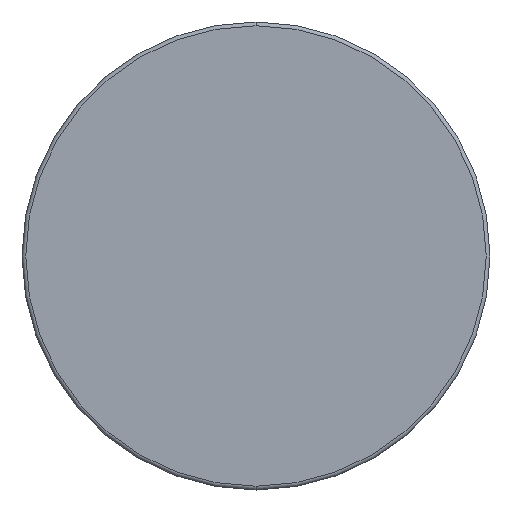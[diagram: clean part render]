
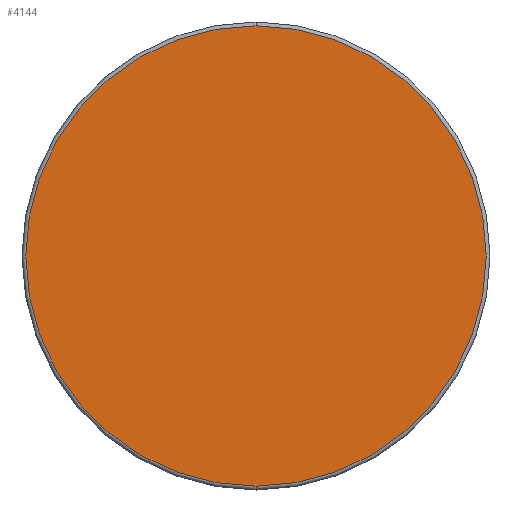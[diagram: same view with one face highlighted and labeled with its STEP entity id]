
A CAD part, front view. The second image highlights one B-rep face of the part: STEP entity #4144.
In plain terms, the highlighted planar face has unit normal (0, -1, 0) as drawn and (-1, 0, 0) by its records, which use the part's own axes.
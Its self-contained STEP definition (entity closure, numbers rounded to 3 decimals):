
#318 = CIRCLE ( 'NONE', #1832, 30.5 ) ;
#328 = CARTESIAN_POINT ( 'NONE',  ( 0., 0., 0. ) ) ;
#770 = EDGE_LOOP ( 'NONE', ( #4523, #3918 ) ) ;
#849 = EDGE_CURVE ( 'NONE', #1199, #3308, #318, .T. ) ;
#1180 = DIRECTION ( 'NONE',  ( 1., 0., 0. ) ) ;
#1199 = VERTEX_POINT ( 'NONE', #4882 ) ;
#1231 = PLANE ( 'NONE',  #2208 ) ;
#1372 = CARTESIAN_POINT ( 'NONE',  ( 0., 0., -30.5 ) ) ;
#1648 = AXIS2_PLACEMENT_3D ( 'NONE', #328, #1844, #3366 ) ;
#1832 = AXIS2_PLACEMENT_3D ( 'NONE', #4535, #2270, #2628 ) ;
#1844 = DIRECTION ( 'NONE',  ( -1., 0., 0. ) ) ;
#1899 = CARTESIAN_POINT ( 'NONE',  ( 0., 0., 0. ) ) ;
#2208 = AXIS2_PLACEMENT_3D ( 'NONE', #1899, #1180, #4628 ) ;
#2270 = DIRECTION ( 'NONE',  ( -1., 0., 0. ) ) ;
#2287 = FACE_OUTER_BOUND ( 'NONE', #770, .T. ) ;
#2628 = DIRECTION ( 'NONE',  ( 0., 0., -1. ) ) ;
#3061 = EDGE_CURVE ( 'NONE', #3308, #1199, #3814, .T. ) ;
#3308 = VERTEX_POINT ( 'NONE', #1372 ) ;
#3366 = DIRECTION ( 'NONE',  ( 0., 0., -1. ) ) ;
#3814 = CIRCLE ( 'NONE', #1648, 30.5 ) ;
#3918 = ORIENTED_EDGE ( 'NONE', *, *, #849, .T. ) ;
#4144 = ADVANCED_FACE ( 'NONE', ( #2287 ), #1231, .F. ) ;
#4523 = ORIENTED_EDGE ( 'NONE', *, *, #3061, .T. ) ;
#4535 = CARTESIAN_POINT ( 'NONE',  ( 0., 0., 0. ) ) ;
#4628 = DIRECTION ( 'NONE',  ( 0., 0., -1. ) ) ;
#4882 = CARTESIAN_POINT ( 'NONE',  ( 0., 0., 30.5 ) ) ;
